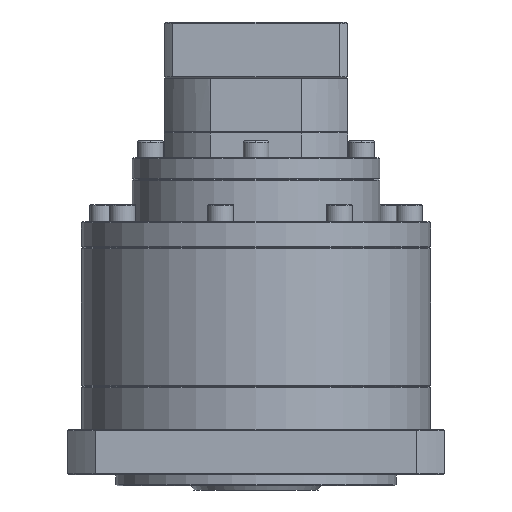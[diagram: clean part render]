
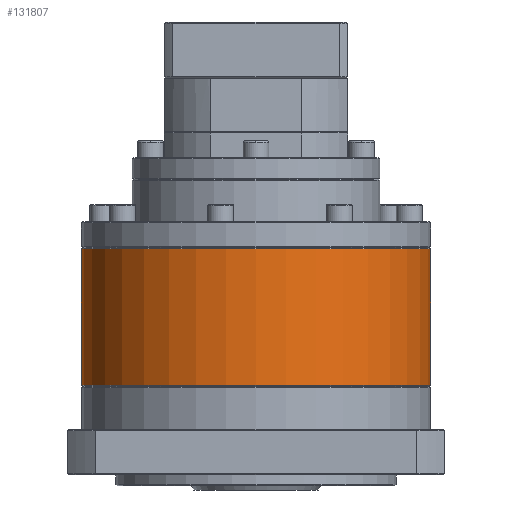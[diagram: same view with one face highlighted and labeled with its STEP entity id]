
A CAD part, front view. The second image highlights one B-rep face of the part: STEP entity #131807.
In plain terms, the highlighted cylindrical face has radius 81 mm (diameter 162 mm), a partial arc.
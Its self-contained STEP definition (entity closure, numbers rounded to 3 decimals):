
#447 = EDGE_LOOP ( 'NONE', ( #15419, #46080, #64631, #50736, #52473 ) ) ;
#8607 = VERTEX_POINT ( 'NONE', #54269 ) ;
#11712 = LINE ( 'NONE', #109665, #22909 ) ;
#12906 = CYLINDRICAL_SURFACE ( 'NONE', #42352, 81. ) ;
#12952 = CARTESIAN_POINT ( 'NONE',  ( -234.465, 71.501, -122.921 ) ) ;
#15419 = ORIENTED_EDGE ( 'NONE', *, *, #120429, .F. ) ;
#17732 = CIRCLE ( 'NONE', #99803, 81. ) ;
#18092 = CIRCLE ( 'NONE', #59373, 81. ) ;
#22909 = VECTOR ( 'NONE', #120035, 1000. ) ;
#27642 = EDGE_CURVE ( 'NONE', #44803, #105591, #118125, .T. ) ;
#30640 = DIRECTION ( 'NONE',  ( -1., 0., 0. ) ) ;
#32944 = DIRECTION ( 'NONE',  ( -1., 0., 0. ) ) ;
#36755 = CARTESIAN_POINT ( 'NONE',  ( -72.465, 71.501, -186.421 ) ) ;
#42352 = AXIS2_PLACEMENT_3D ( 'NONE', #49643, #60528, #30640 ) ;
#43773 = CARTESIAN_POINT ( 'NONE',  ( -234.465, 71.501, -122.421 ) ) ;
#44803 = VERTEX_POINT ( 'NONE', #12952 ) ;
#45822 = EDGE_CURVE ( 'NONE', #8607, #44803, #115012, .T. ) ;
#46080 = ORIENTED_EDGE ( 'NONE', *, *, #60647, .T. ) ;
#49643 = CARTESIAN_POINT ( 'NONE',  ( -153.465, 71.501, -122.421 ) ) ;
#50736 = ORIENTED_EDGE ( 'NONE', *, *, #27642, .T. ) ;
#52473 = ORIENTED_EDGE ( 'NONE', *, *, #67049, .T. ) ;
#54269 = CARTESIAN_POINT ( 'NONE',  ( -153.465, -9.499, -122.921 ) ) ;
#54602 = DIRECTION ( 'NONE',  ( 0., 0., -1. ) ) ;
#58585 = VECTOR ( 'NONE', #106011, 1000. ) ;
#59373 = AXIS2_PLACEMENT_3D ( 'NONE', #74663, #107013, #117370 ) ;
#60528 = DIRECTION ( 'NONE',  ( 0., 0., -1. ) ) ;
#60647 = EDGE_CURVE ( 'NONE', #94259, #8607, #17732, .T. ) ;
#60743 = CARTESIAN_POINT ( 'NONE',  ( -153.465, 71.501, -122.921 ) ) ;
#64631 = ORIENTED_EDGE ( 'NONE', *, *, #45822, .T. ) ;
#67049 = EDGE_CURVE ( 'NONE', #105591, #94222, #18092, .T. ) ;
#74663 = CARTESIAN_POINT ( 'NONE',  ( -153.465, 71.501, -186.421 ) ) ;
#79356 = AXIS2_PLACEMENT_3D ( 'NONE', #115439, #54602, #32944 ) ;
#87330 = CARTESIAN_POINT ( 'NONE',  ( -72.465, 71.501, -122.921 ) ) ;
#90898 = DIRECTION ( 'NONE',  ( 0., 0., -1. ) ) ;
#94222 = VERTEX_POINT ( 'NONE', #36755 ) ;
#94259 = VERTEX_POINT ( 'NONE', #87330 ) ;
#99803 = AXIS2_PLACEMENT_3D ( 'NONE', #60743, #90898, #100413 ) ;
#100413 = DIRECTION ( 'NONE',  ( -1., 0., 0. ) ) ;
#105591 = VERTEX_POINT ( 'NONE', #109803 ) ;
#106011 = DIRECTION ( 'NONE',  ( 0., 0., -1. ) ) ;
#107013 = DIRECTION ( 'NONE',  ( 0., 0., 1. ) ) ;
#109665 = CARTESIAN_POINT ( 'NONE',  ( -72.465, 71.501, -122.421 ) ) ;
#109803 = CARTESIAN_POINT ( 'NONE',  ( -234.465, 71.501, -186.421 ) ) ;
#111340 = FACE_OUTER_BOUND ( 'NONE', #447, .T. ) ;
#115012 = CIRCLE ( 'NONE', #79356, 81. ) ;
#115439 = CARTESIAN_POINT ( 'NONE',  ( -153.465, 71.501, -122.921 ) ) ;
#117370 = DIRECTION ( 'NONE',  ( -1., 0., 0. ) ) ;
#118125 = LINE ( 'NONE', #43773, #58585 ) ;
#120035 = DIRECTION ( 'NONE',  ( 0., 0., -1. ) ) ;
#120429 = EDGE_CURVE ( 'NONE', #94259, #94222, #11712, .T. ) ;
#131807 = ADVANCED_FACE ( 'NONE', ( #111340 ), #12906, .T. ) ;
